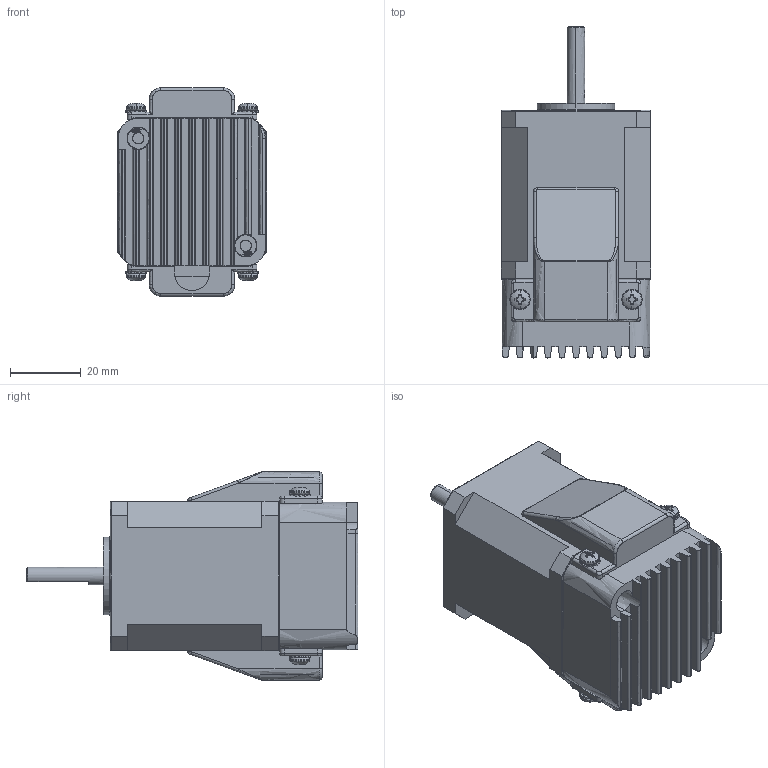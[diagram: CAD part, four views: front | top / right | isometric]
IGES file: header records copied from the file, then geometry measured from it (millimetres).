
Start section: SolidWorks IGES file using analytic representation for surfaces
Global section: file name: C:\Users\IEUser\Documents\Christine folder\Arcus\Project #23 DMX Drawings\DMX-K-DRV-17\DMX-K-DRV-17-3.IGS; native system: SolidWorks 2008; preprocessor: SolidWorks 2008; author: IEUser; date: 140219.211332; units: millimetre
Bounding box: 42.3 x 94.11 x 59.06 mm (x, y, z)
Surface area: 31817.5 mm2 (no closed solid volume)
Topology: 0 solids, 0 shells, 1620 faces, 15114 edges, 15002 vertices
Faces by surface type: bspline 1131, revolution 489
